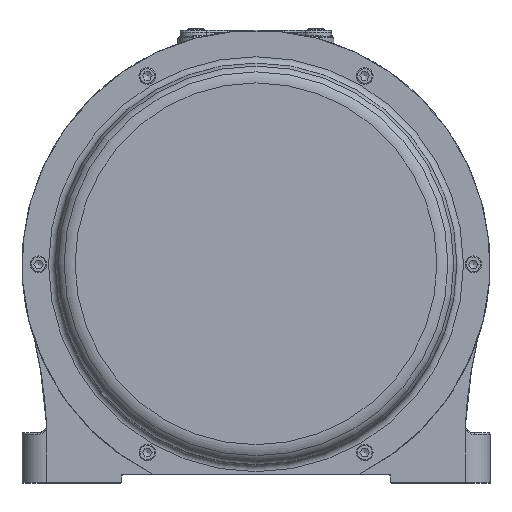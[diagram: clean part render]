
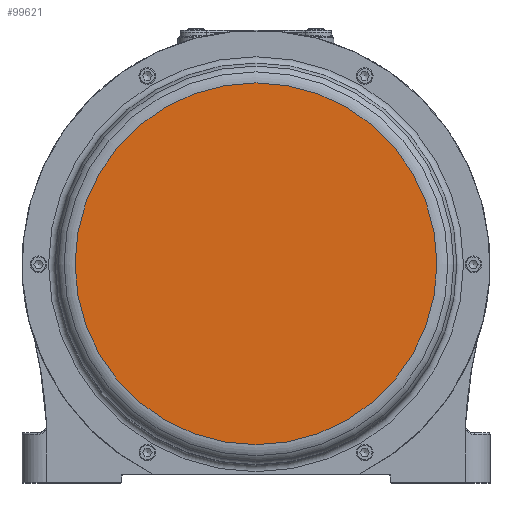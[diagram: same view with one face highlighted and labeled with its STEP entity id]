
A CAD part, top view. The second image highlights one B-rep face of the part: STEP entity #99621.
In plain terms, the highlighted planar face has unit normal (0, 0, 1).
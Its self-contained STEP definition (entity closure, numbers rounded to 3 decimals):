
#10649=CIRCLE('',#104849,109.);
#16391=FACE_OUTER_BOUND('',#22271,.T.);
#22271=EDGE_LOOP('',(#83288));
#47085=VERTEX_POINT('',#164743);
#59515=EDGE_CURVE('',#47085,#47085,#10649,.T.);
#83288=ORIENTED_EDGE('',*,*,#59515,.F.);
#95830=PLANE('',#104857);
#99621=ADVANCED_FACE('',(#16391),#95830,.T.);
#104849=AXIS2_PLACEMENT_3D('',#164745,#121728,#121729);
#104857=AXIS2_PLACEMENT_3D('',#164758,#121745,#121746);
#121728=DIRECTION('center_axis',(0.,0.,-1.));
#121729=DIRECTION('ref_axis',(0.,-1.,0.));
#121745=DIRECTION('center_axis',(0.,0.,1.));
#121746=DIRECTION('ref_axis',(1.,0.,0.));
#164743=CARTESIAN_POINT('',(97.436,32.124,273.124));
#164745=CARTESIAN_POINT('Origin',(-11.564,32.124,273.124));
#164758=CARTESIAN_POINT('Origin',(-11.564,92.624,273.124));
